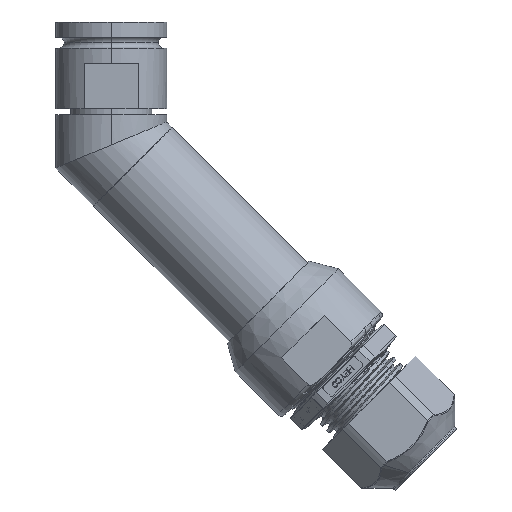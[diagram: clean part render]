
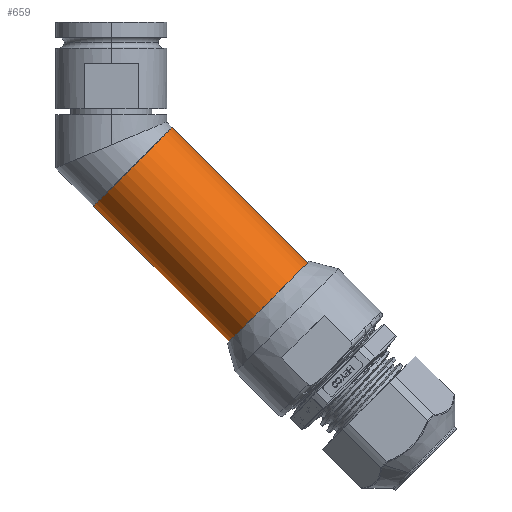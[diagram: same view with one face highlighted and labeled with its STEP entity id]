
A CAD part, left-side view. The second image highlights one B-rep face of the part: STEP entity #659.
In plain terms, the highlighted cylindrical face has radius 11.62 mm (diameter 23.241 mm), a partial arc.
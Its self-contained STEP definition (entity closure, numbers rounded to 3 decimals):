
#659 = ADVANCED_FACE ( 'NONE', ( #41423 ), #15052, .T. ) ;
#1392 = CIRCLE ( 'NONE', #16189, 11.62 ) ;
#1984 = ORIENTED_EDGE ( 'NONE', *, *, #41392, .T. ) ;
#4946 = EDGE_LOOP ( 'NONE', ( #56939, #9189, #1984, #34676 ) ) ;
#6647 = DIRECTION ( 'NONE',  ( 0., -0.707, 0.707 ) ) ;
#9189 = ORIENTED_EDGE ( 'NONE', *, *, #11911, .F. ) ;
#10395 = DIRECTION ( 'NONE',  ( 0., 0.707, -0.707 ) ) ;
#10708 = LINE ( 'NONE', #38793, #48497 ) ;
#11911 = EDGE_CURVE ( 'NONE', #13797, #22793, #1392, .T. ) ;
#12311 = CARTESIAN_POINT ( 'NONE',  ( 0., 3.646, -32.841 ) ) ;
#13291 = DIRECTION ( 'NONE',  ( 0., -0.707, 0.707 ) ) ;
#13797 = VERTEX_POINT ( 'NONE', #37952 ) ;
#14409 = CARTESIAN_POINT ( 'NONE',  ( 0., -12.788, -16.407 ) ) ;
#15052 = CYLINDRICAL_SURFACE ( 'NONE', #28189, 11.62 ) ;
#16189 = AXIS2_PLACEMENT_3D ( 'NONE', #40823, #36462, #10395 ) ;
#16500 = CARTESIAN_POINT ( 'NONE',  ( 0., -4.571, -24.624 ) ) ;
#17646 = DIRECTION ( 'NONE',  ( 0., 0.707, 0.707 ) ) ;
#19542 = EDGE_CURVE ( 'NONE', #22172, #25740, #43985, .T. ) ;
#21810 = LINE ( 'NONE', #56310, #49670 ) ;
#22172 = VERTEX_POINT ( 'NONE', #12311 ) ;
#22793 = VERTEX_POINT ( 'NONE', #43354 ) ;
#24059 = EDGE_CURVE ( 'NONE', #22793, #22172, #21810, .T. ) ;
#25740 = VERTEX_POINT ( 'NONE', #14409 ) ;
#26402 = AXIS2_PLACEMENT_3D ( 'NONE', #16500, #17646, #13291 ) ;
#28189 = AXIS2_PLACEMENT_3D ( 'NONE', #36780, #32157, #6647 ) ;
#32157 = DIRECTION ( 'NONE',  ( 0., 0.707, 0.707 ) ) ;
#34676 = ORIENTED_EDGE ( 'NONE', *, *, #19542, .F. ) ;
#36462 = DIRECTION ( 'NONE',  ( 0., -0.707, -0.707 ) ) ;
#36780 = CARTESIAN_POINT ( 'NONE',  ( 0., -4.571, -24.624 ) ) ;
#37952 = CARTESIAN_POINT ( 'NONE',  ( 0., -41.112, -44.731 ) ) ;
#38793 = CARTESIAN_POINT ( 'NONE',  ( 0., -12.788, -16.407 ) ) ;
#40823 = CARTESIAN_POINT ( 'NONE',  ( 0., -32.895, -52.948 ) ) ;
#41392 = EDGE_CURVE ( 'NONE', #13797, #25740, #10708, .T. ) ;
#41423 = FACE_OUTER_BOUND ( 'NONE', #4946, .T. ) ;
#43148 = DIRECTION ( 'NONE',  ( 0., 0.707, 0.707 ) ) ;
#43354 = CARTESIAN_POINT ( 'NONE',  ( 0., -24.678, -61.165 ) ) ;
#43985 = CIRCLE ( 'NONE', #26402, 11.62 ) ;
#47901 = DIRECTION ( 'NONE',  ( 0., 0.707, 0.707 ) ) ;
#48497 = VECTOR ( 'NONE', #43148, 1000. ) ;
#49670 = VECTOR ( 'NONE', #47901, 1000. ) ;
#56310 = CARTESIAN_POINT ( 'NONE',  ( 0., 3.646, -32.841 ) ) ;
#56939 = ORIENTED_EDGE ( 'NONE', *, *, #24059, .F. ) ;
